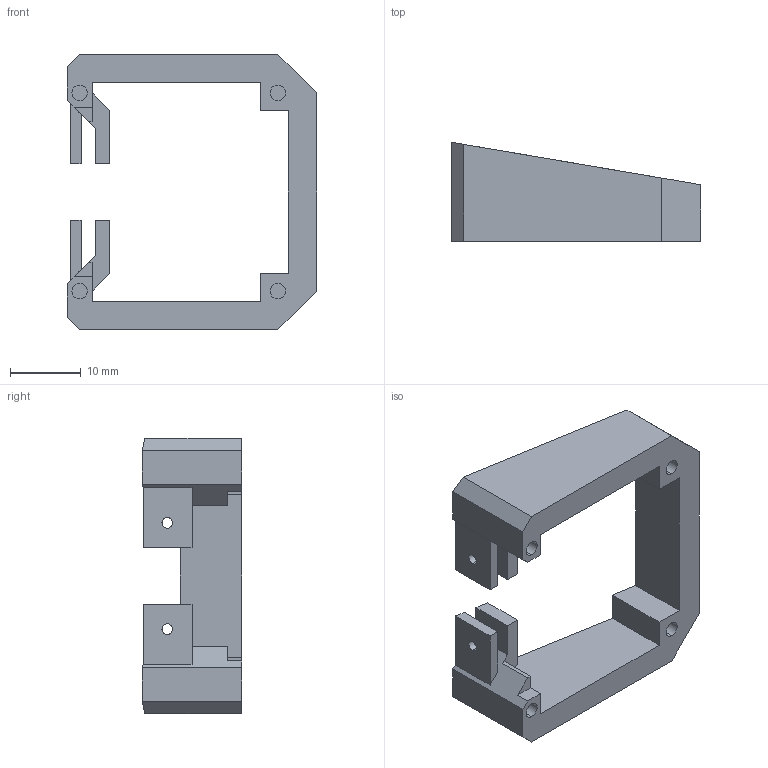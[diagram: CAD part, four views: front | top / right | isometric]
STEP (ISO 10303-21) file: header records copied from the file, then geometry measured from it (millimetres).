
FILE_DESCRIPTION (( 'STEP AP214' ), '1' );
FILE_NAME ('CAMTILT-LOW-LIGHT-HD-USB-R1.STEP', '2017-09-01T16:29:17', ( '' ), ( '' ), 'SwSTEP 2.0', 'SolidWorks 2016', '' );
FILE_SCHEMA (( 'AUTOMOTIVE_DESIGN' ));
Length unit declared in the file: millimetre
Products named in the file (1): CAMTILT-LOW-LIGHT-HD-USB-R1
Bounding box: 35.25 x 14 x 39 mm (x, y, z)
Volume: 4791.2 mm3; surface area: 3941.5 mm2
Topology: 1 solids, 1 shells, 66 faces, 180 edges, 120 vertices
Faces by surface type: plane 50, cylinder 16
Entity records: 2126 total; most frequent: CARTESIAN_POINT 367, ORIENTED_EDGE 360, DIRECTION 346, EDGE_CURVE 180, VECTOR 148, LINE 148, VERTEX_POINT 120, AXIS2_PLACEMENT_3D 99
